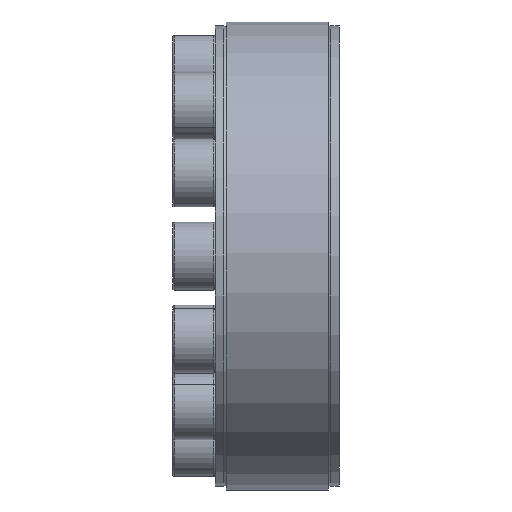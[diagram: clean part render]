
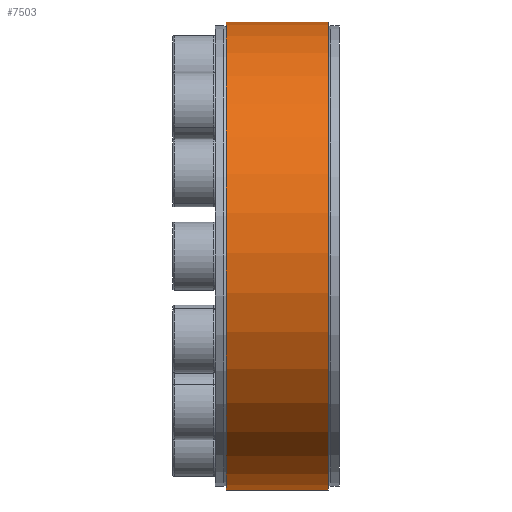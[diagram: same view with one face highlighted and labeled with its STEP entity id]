
A CAD part, front view. The second image highlights one B-rep face of the part: STEP entity #7503.
In plain terms, the highlighted cylindrical face has radius 55 mm (diameter 110 mm), a partial arc.
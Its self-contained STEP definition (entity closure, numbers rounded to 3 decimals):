
#219 = VERTEX_POINT ( 'NONE', #2894 ) ;
#387 = CIRCLE ( 'NONE', #9004, 55. ) ;
#1733 = DIRECTION ( 'NONE',  ( 0., 0., 1. ) ) ;
#1890 = ORIENTED_EDGE ( 'NONE', *, *, #8857, .T. ) ;
#2011 = VERTEX_POINT ( 'NONE', #4311 ) ;
#2045 = AXIS2_PLACEMENT_3D ( 'NONE', #8198, #3306, #9003 ) ;
#2630 = ORIENTED_EDGE ( 'NONE', *, *, #6506, .T. ) ;
#2894 = CARTESIAN_POINT ( 'NONE',  ( 12., -1.5, -54.98 ) ) ;
#3051 = DIRECTION ( 'NONE',  ( 1., 0., 0. ) ) ;
#3306 = DIRECTION ( 'NONE',  ( -1., 0., 0. ) ) ;
#3389 = VECTOR ( 'NONE', #6630, 1000. ) ;
#3579 = EDGE_CURVE ( 'NONE', #8217, #5166, #5550, .T. ) ;
#3972 = AXIS2_PLACEMENT_3D ( 'NONE', #5837, #6646, #1733 ) ;
#4167 = CARTESIAN_POINT ( 'NONE',  ( -14.578, 0., 55. ) ) ;
#4193 = EDGE_LOOP ( 'NONE', ( #2630, #7864, #4561, #1890 ) ) ;
#4311 = CARTESIAN_POINT ( 'NONE',  ( -12., -1.5, -54.98 ) ) ;
#4493 = DIRECTION ( 'NONE',  ( -1., 0., 0. ) ) ;
#4506 = CYLINDRICAL_SURFACE ( 'NONE', #3972, 55. ) ;
#4561 = ORIENTED_EDGE ( 'NONE', *, *, #6193, .F. ) ;
#5166 = VERTEX_POINT ( 'NONE', #7929 ) ;
#5550 = LINE ( 'NONE', #4167, #3389 ) ;
#5837 = CARTESIAN_POINT ( 'NONE',  ( -14.578, 0., 0. ) ) ;
#6193 = EDGE_CURVE ( 'NONE', #2011, #5166, #387, .T. ) ;
#6201 = CARTESIAN_POINT ( 'NONE',  ( 12., 0., 55. ) ) ;
#6506 = EDGE_CURVE ( 'NONE', #219, #8217, #10346, .T. ) ;
#6546 = VECTOR ( 'NONE', #3051, 1000. ) ;
#6630 = DIRECTION ( 'NONE',  ( -1., 0., 0. ) ) ;
#6646 = DIRECTION ( 'NONE',  ( -1., 0., 0. ) ) ;
#6935 = FACE_OUTER_BOUND ( 'NONE', #4193, .T. ) ;
#7503 = ADVANCED_FACE ( 'NONE', ( #6935 ), #4506, .T. ) ;
#7864 = ORIENTED_EDGE ( 'NONE', *, *, #3579, .T. ) ;
#7929 = CARTESIAN_POINT ( 'NONE',  ( -12., 0., 55. ) ) ;
#8198 = CARTESIAN_POINT ( 'NONE',  ( 12., 0., 0. ) ) ;
#8217 = VERTEX_POINT ( 'NONE', #6201 ) ;
#8698 = LINE ( 'NONE', #8744, #6546 ) ;
#8744 = CARTESIAN_POINT ( 'NONE',  ( -14.578, -1.5, -54.98 ) ) ;
#8857 = EDGE_CURVE ( 'NONE', #2011, #219, #8698, .T. ) ;
#9003 = DIRECTION ( 'NONE',  ( 0., 0., 1. ) ) ;
#9004 = AXIS2_PLACEMENT_3D ( 'NONE', #9368, #4493, #10196 ) ;
#9368 = CARTESIAN_POINT ( 'NONE',  ( -12., 0., 0. ) ) ;
#10196 = DIRECTION ( 'NONE',  ( 0., 0., 1. ) ) ;
#10346 = CIRCLE ( 'NONE', #2045, 55. ) ;
